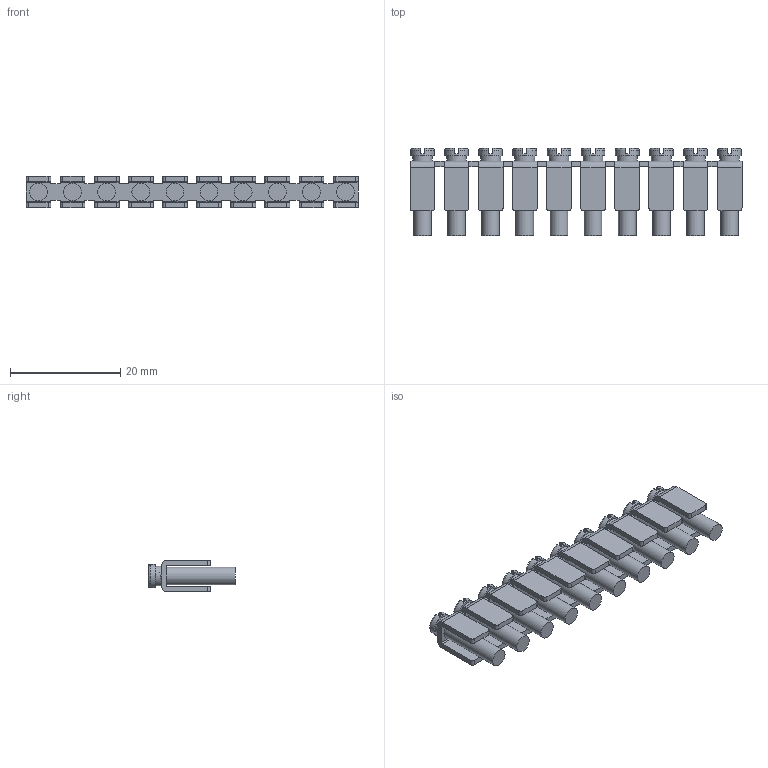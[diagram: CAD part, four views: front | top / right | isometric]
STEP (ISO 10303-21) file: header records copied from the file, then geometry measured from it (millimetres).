
FILE_DESCRIPTION(('Open CASCADE Model'),'2;1');
FILE_NAME('Open CASCADE Shape Model','2023-12-20T15:13:49',('Author'),( 'Open CASCADE'),'Open CASCADE STEP processor 6.5','Open CASCADE 6.5' ,'Unknown');
FILE_SCHEMA(('AUTOMOTIVE_DESIGN { 1 0 10303 214 1 1 1 1 }'));
Length unit declared in the file: millimetre
Products named in the file (419): CADSOFTTOOLS 5; CADSOFTTOOLS 5.1; CADSOFTTOOLS 5.2; CADSOFTTOOLS 5.3; CADSOFTTOOLS 5.4; CADSOFTTOOLS 5.5; CADSOFTTOOLS 5.6; CADSOFTTOOLS 5.7; CADSOFTTOOLS 5.8; CADSOFTTOOLS 5.9; CADSOFTTOOLS 5.10; CADSOFTTOOLS 5.11; CADSOFTTOOLS 5.12; CADSOFTTOOLS 5.13; CADSOFTTOOLS 5.14; CADSOFTTOOLS 5.15; CADSOFTTOOLS 5.16; CADSOFTTOOLS 5.17; CADSOFTTOOLS 5.18; CADSOFTTOOLS 5.19; CADSOFTTOOLS 5.20; CADSOFTTOOLS 5.21; CADSOFTTOOLS 5.22; CADSOFTTOOLS 5.23; CADSOFTTOOLS 5.24; CADSOFTTOOLS 5.25; CADSOFTTOOLS 5.26; CADSOFTTOOLS 5.27; CADSOFTTOOLS 5.28; CADSOFTTOOLS 5.29; CADSOFTTOOLS 5.30; CADSOFTTOOLS 5.31; CADSOFTTOOLS 5.32; CADSOFTTOOLS 5.33; CADSOFTTOOLS 5.34; CADSOFTTOOLS 5.35; CADSOFTTOOLS 5.36; CADSOFTTOOLS 5.37; CADSOFTTOOLS 5.38; CADSOFTTOOLS 5.39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
Assembly tree (418 placements, depth 2):
  CADSOFTTOOLS 5
    CADSOFTTOOLS 5.1
    CADSOFTTOOLS 5.2
    CADSOFTTOOLS 5.3
    CADSOFTTOOLS 5.4
    CADSOFTTOOLS 5.5
    CADSOFTTOOLS 5.6
    CADSOFTTOOLS 5.7
    CADSOFTTOOLS 5.8
    CADSOFTTOOLS 5.9
    CADSOFTTOOLS 5.10
    CADSOFTTOOLS 5.11
    CADSOFTTOOLS 5.12
    CADSOFTTOOLS 5.13
    CADSOFTTOOLS 5.14
    CADSOFTTOOLS 5.15
    CADSOFTTOOLS 5.16
    CADSOFTTOOLS 5.17
    CADSOFTTOOLS 5.18
    CADSOFTTOOLS 5.19
    CADSOFTTOOLS 5.20
    CADSOFTTOOLS 5.21
    CADSOFTTOOLS 5.22
    CADSOFTTOOLS 5.23
    CADSOFTTOOLS 5.24
    CADSOFTTOOLS 5.25
    CADSOFTTOOLS 5.26
    CADSOFTTOOLS 5.27
    CADSOFTTOOLS 5.28
    CADSOFTTOOLS 5.29
    CADSOFTTOOLS 5.30
    CADSOFTTOOLS 5.31
    CADSOFTTOOLS 5.32
    CADSOFTTOOLS 5.33
    CADSOFTTOOLS 5.34
    CADSOFTTOOLS 5.35
    CADSOFTTOOLS 5.36
    CADSOFTTOOLS 5.37
    CADSOFTTOOLS 5.38
    CADSOFTTOOLS 5.39
    CADSOFTTOOLS 5.40
    CADSOFTTOOLS 5.41
    CADSOFTTOOLS 5.42
    CADSOFTTOOLS 5.43
    CADSOFTTOOLS 5.44
    CADSOFTTOOLS 5.45
    CADSOFTTOOLS 5.46
    CADSOFTTOOLS 5.47
    CADSOFTTOOLS 5.48
    CADSOFTTOOLS 5.49
    CADSOFTTOOLS 5.50
    CADSOFTTOOLS 5.51
    CADSOFTTOOLS 5.52
    CADSOFTTOOLS 5.53
    CADSOFTTOOLS 5.54
    CADSOFTTOOLS 5.55
    CADSOFTTOOLS 5.56
    CADSOFTTOOLS 5.57
    CADSOFTTOOLS 5.58
    CADSOFTTOOLS 5.59
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Bounding box: 60.3 x 15.8 x 5.8 mm (x, y, z)
Surface area: 4366.7 mm2 (no closed solid volume)
Topology: 0 solids, 418 shells, 418 faces, 2254 edges, 2214 vertices
Faces by surface type: plane 228, cylinder 140, bspline 30, torus 20
Full cylindrical faces by diameter (mm): 3.2 x20, 3.6 x10, 4.3 x10
Entity records: 93066 total; most frequent: CARTESIAN_POINT 57512, DIRECTION 5322, ORIENTED_EDGE 2294, PCURVE 2294, DEFINITIONAL_REPRESENTATION 2294, EDGE_CURVE 2254, VERTEX_POINT 2214, SURFACE_CURVE 2214
